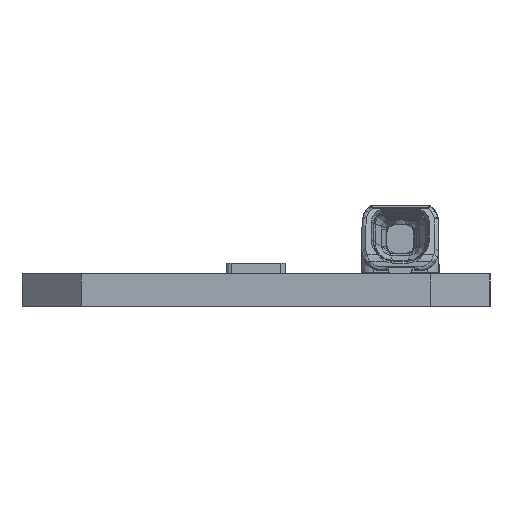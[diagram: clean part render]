
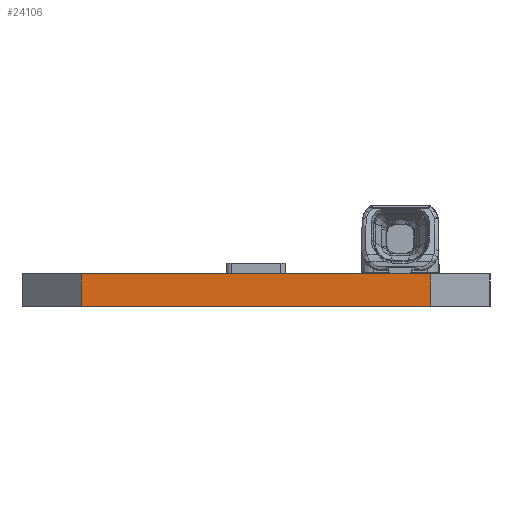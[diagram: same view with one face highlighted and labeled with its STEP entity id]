
A CAD part, left-side view. The second image highlights one B-rep face of the part: STEP entity #24106.
In plain terms, the highlighted planar face has unit normal (-1, 0, 0).
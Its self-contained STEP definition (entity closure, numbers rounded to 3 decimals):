
#272=DIRECTION('',(0.,1.,0.));
#273=VECTOR('',#272,17.6);
#274=CARTESIAN_POINT('',(-279.5,-8.8,0.));
#275=LINE('',#274,#273);
#706=DIRECTION('',(0.,0.,1.));
#707=VECTOR('',#706,1.65);
#708=CARTESIAN_POINT('',(-279.5,-8.8,0.));
#709=LINE('',#708,#707);
#713=DIRECTION('',(0.,1.,0.));
#714=VECTOR('',#713,17.6);
#715=CARTESIAN_POINT('',(-279.5,-8.8,1.65));
#716=LINE('',#715,#714);
#720=DIRECTION('',(0.,0.,1.));
#721=VECTOR('',#720,1.65);
#722=CARTESIAN_POINT('',(-279.5,8.8,0.));
#723=LINE('',#722,#721);
#20548=CARTESIAN_POINT('',(-279.5,-8.8,1.65));
#20549=CARTESIAN_POINT('',(-279.5,8.8,1.65));
#20550=VERTEX_POINT('',#20548);
#20551=VERTEX_POINT('',#20549);
#20692=CARTESIAN_POINT('',(-279.5,8.8,0.));
#20693=VERTEX_POINT('',#20692);
#20734=CARTESIAN_POINT('',(-279.5,-8.8,0.));
#20735=VERTEX_POINT('',#20734);
#24093=CARTESIAN_POINT('',(-279.5,8.8,1.65));
#24094=DIRECTION('',(-1.,0.,0.));
#24095=DIRECTION('',(0.,0.,1.));
#24096=AXIS2_PLACEMENT_3D('',#24093,#24094,#24095);
#24097=PLANE('',#24096);
#24098=ORIENTED_EDGE('',*,*,#24079,.F.);
#24099=ORIENTED_EDGE('',*,*,#23734,.T.);
#24101=ORIENTED_EDGE('',*,*,#24100,.T.);
#24103=ORIENTED_EDGE('',*,*,#24102,.F.);
#24104=EDGE_LOOP('',(#24098,#24099,#24101,#24103));
#24105=FACE_OUTER_BOUND('',#24104,.F.);
#23734=EDGE_CURVE('',#20735,#20693,#275,.T.);
#24079=EDGE_CURVE('',#20735,#20550,#709,.T.);
#24100=EDGE_CURVE('',#20693,#20551,#723,.T.);
#24102=EDGE_CURVE('',#20550,#20551,#716,.T.);
#24106=ADVANCED_FACE('',(#24105),#24097,.T.);
